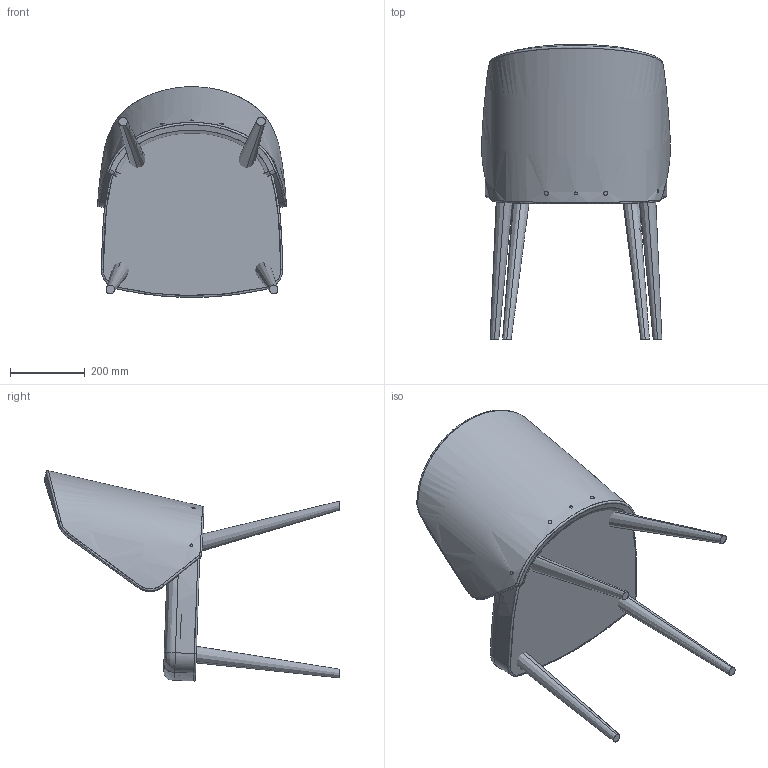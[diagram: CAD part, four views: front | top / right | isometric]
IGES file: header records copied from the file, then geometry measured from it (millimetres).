
Start section: SolidWorks IGES file using analytic representation for surfaces
Global section: file name: C:\Users\emanuel\Documents\TRABALHO\DESENHO TÉCNICO\JMS\Catalogo ALLseating 2016\Cadeiras__Cadeiroes_Bancos_Poltronas_alissas_etc\Edna_Lana_Alina\Cadeira\Cadeira_A970.IGS; native system: SolidWorks 2017; preprocessor: SolidWorks 2017; author: Emanuel; date: 170531.155553; units: millimetre
Bounding box: 505.32 x 790.21 x 563.61 mm (x, y, z)
Surface area: 2855121.1 mm2 (no closed solid volume)
Topology: 0 solids, 0 shells, 1268 faces, 18622 edges, 18520 vertices
Faces by surface type: bspline 667, revolution 601
